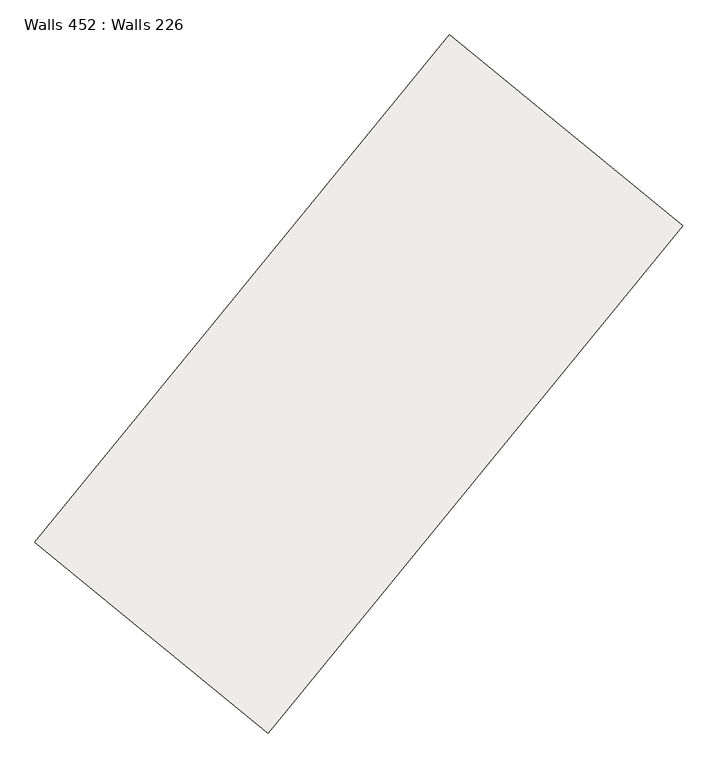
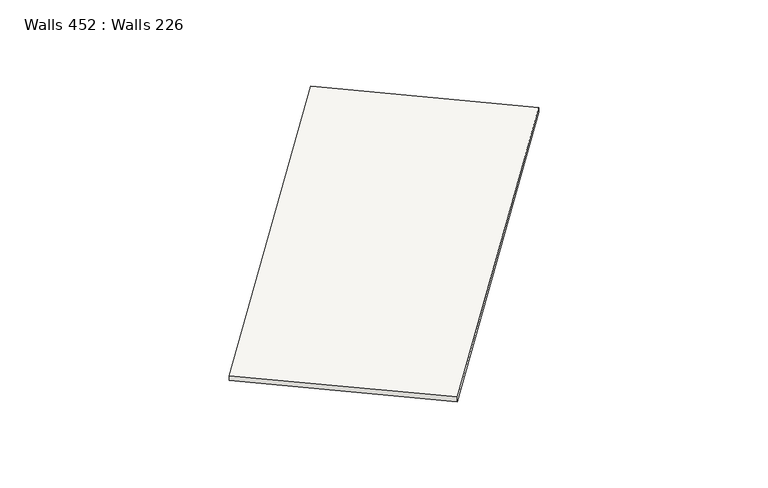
"""IFC4 building model written with IfcOpenShell, lengths in millimetres: slab geometry, Walls 452 : Walls 226."""

from ifc_helpers import new_model, si_unit, frame, origin, place, context, project, spatial, polyline, outline, extrude, source, transform, mapped, element, save


def walls_452_walls_226_16864104(model_context):
    return source(origin(), model_context, "Body", "SweptSolid", [
        extrude(outline(polyline([(-50.0, 0.0), (50.0, 0.0), (-62.0, -8700.0000008), (-162.0, -8700.0000008), (-50.0, 0.0)])), frame((413226.3060502, 283870.6591444, 645200.0), z_axis=(-0.7739621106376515, 0.6332319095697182, 0.0), x_axis=(0.0, 0.0, 1.0)), (0.0, 0.0, 1.0), 4000.0),
    ])


if __name__ == "__main__":
    model = new_model("IFC4")
    model_context = context("Model", 3, world=origin())
    ifc_project = project(units=[si_unit("LENGTHUNIT", "METRE", prefix="MILLI")], contexts=[model_context])
    site = spatial("IfcSite", under=ifc_project)
    building = spatial("IfcBuilding", under=site)
    placement = place(None, origin())
    walls_452_walls_226_shape = walls_452_walls_226_16864104(model_context)
    element("IfcSlab", 1, ObjectType="Walls 452 : Walls 226", at=placement, inside=building, context=model_context, shape_type="MappedRepresentation", body=[
        mapped(walls_452_walls_226_shape, transform((0.0, 0.0, 0.0), x_axis=(1.0, 0.0, 0.0), y_axis=(0.0, 1.0, 0.0), z_axis=(0.0, 0.0, 1.0))),
    ])
    save(model, "model.ifc")
